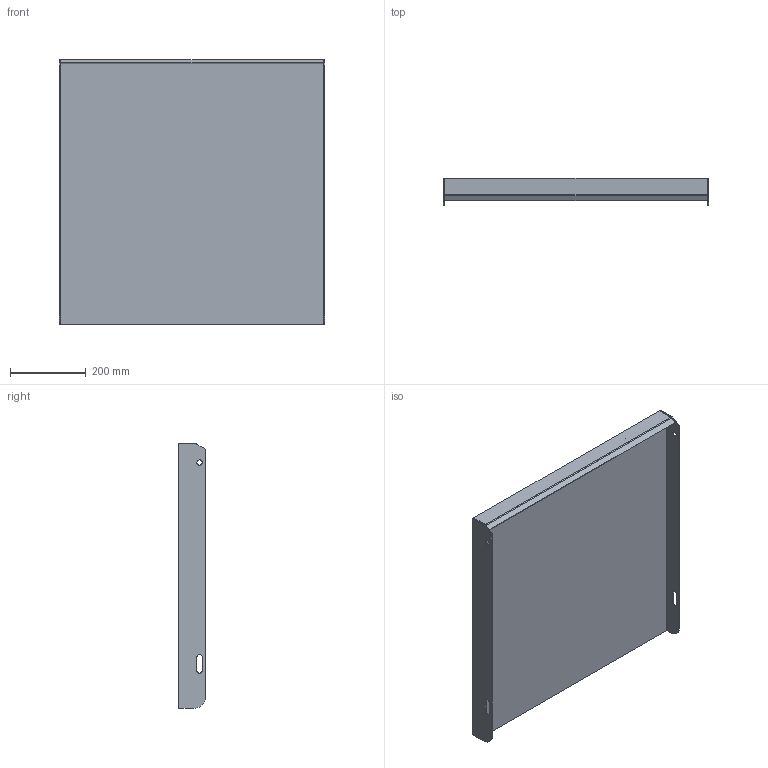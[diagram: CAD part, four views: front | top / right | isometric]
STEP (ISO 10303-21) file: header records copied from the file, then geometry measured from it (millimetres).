
FILE_DESCRIPTION (( 'STEP AP203' ), '1' );
FILE_NAME ('148807071, Plan TH6, 700x700, vfz.STEP', '2020-10-21T13:32:13', ( '' ), ( '' ), 'SwSTEP 2.0', 'SolidWorks 2019', '' );
FILE_SCHEMA (( 'CONFIG_CONTROL_DESIGN' ));
Length unit declared in the file: millimetre
Products named in the file (4): SW0000041478; SW0000041831; 148807071, Plan TH6, 700x700, vfz; SW0000041386
Assembly tree (4 placements, depth 2):
  148807071, Plan TH6, 700x700, vfz
    SW0000041831
    SW0000041386  x2
    SW0000041478
Bounding box: 700 x 70 x 697 mm (x, y, z)
Volume: 12449366.1 mm3; surface area: 1321255 mm2
Topology: 4 solids, 4 shells, 59 faces, 142 edges, 92 vertices
Faces by surface type: plane 45, cylinder 14
Entity records: 1693 total; most frequent: DIRECTION 221, CARTESIAN_POINT 220, ORIENTED_EDGE 206, EDGE_CURVE 103, VECTOR 87, LINE 87, AXIS2_PLACEMENT_3D 67, VERTEX_POINT 66
